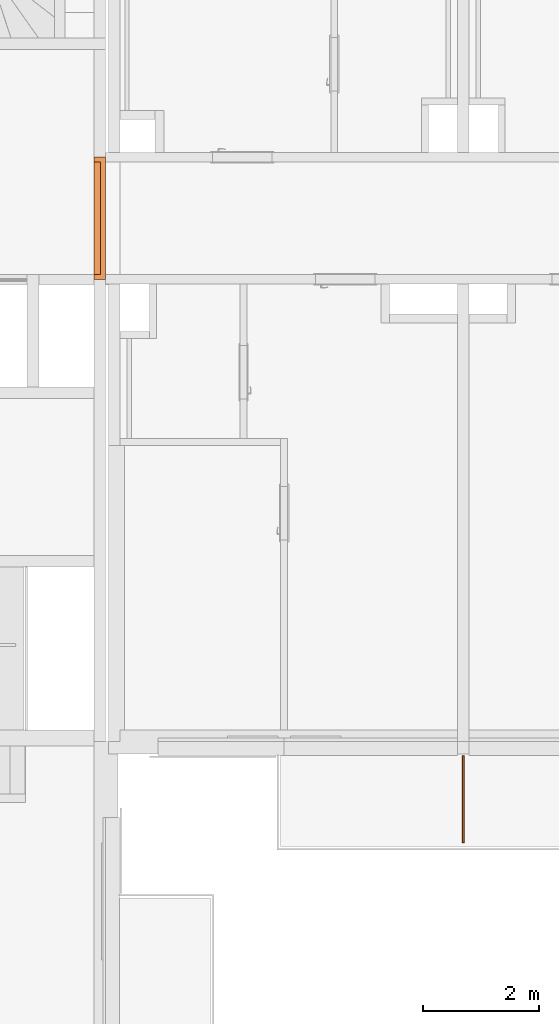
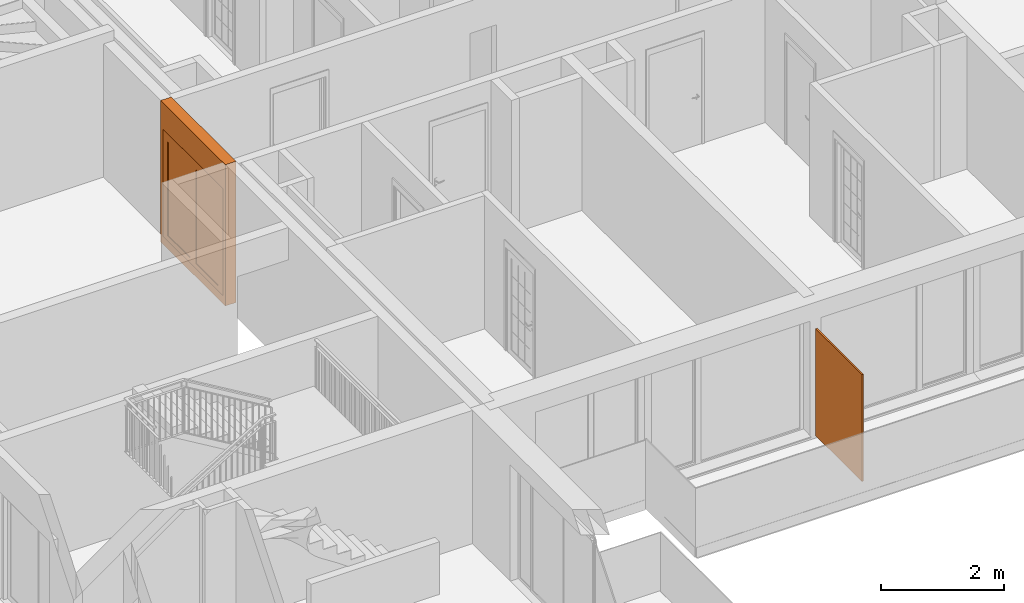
# One storey, part 15 of 61: 3 proxies, 1 opening.
"""IFC2X3 building model written with IfcOpenShell, lengths in millimetres."""

import ifcopenshell
import ifcopenshell.guid

model = None  # the IFC model being written
_history = None  # IfcOwnerHistory: only IFC2X3 demands one
_inside = {}  # id of a spatial element -> (the spatial element, [elements in it])
_under = {}  # id of a project, library or spatial element -> (it, [spatial elements below it])
_declared = {}  # id of a project -> (the project, [libraries it declares])
_typed = {}  # id of a type object -> (the type object, [elements of that type])
_made_of = {}  # id of a material, layer set ... -> (it, [elements and type objects made of it])


def new_model(schema):
    """Start an empty IFC model of exactly this schema.

    Asked for "IFC4X3", IfcOpenShell would pick the latest addendum, in which some entities
    have other attributes; the version numbers below select the first issue.
    IFC2X3 requires an IfcOwnerHistory on every rooted entity: one is made here for all.
    """
    global model, _history
    if schema == "IFC4X3":
        model = ifcopenshell.file(schema_version=(4, 3, 0, 0))
    else:
        model = ifcopenshell.file(schema=schema)
    _inside.clear()
    _under.clear()
    _declared.clear()
    _typed.clear()
    _made_of.clear()
    _history = None
    if model.schema == "IFC2X3":
        org = make("IfcOrganization", Name="unknown")
        user = make(
            "IfcPersonAndOrganization",
            ThePerson=make("IfcPerson", FamilyName="unknown"),
            TheOrganization=org,
        )
        app = make(
            "IfcApplication",
            ApplicationDeveloper=org,
            Version="unknown",
            ApplicationFullName="unknown",
            ApplicationIdentifier="unknown",
        )
        _history = make(
            "IfcOwnerHistory",
            OwningUser=user,
            OwningApplication=app,
            ChangeAction="ADDED",
            CreationDate=0,
        )
    return model


def make(cls, **values):
    """One entity of the class cls with the attributes given. An attribute that is None is left unset."""
    return model.create_entity(
        cls, **{name: value for name, value in values.items() if value is not None}
    )


def entity(cls, *values):
    """Any entity or typed value of the class cls, its attributes in the order of the schema. None: left unset."""
    e = model.create_entity(cls)
    for i, value in enumerate(values):
        if value is not None:
            e[i] = value
    return e


def rooted(cls, **values):
    """An entity with a GlobalId (a new one), such as an element, a storey or a relation."""
    return make(cls, GlobalId=ifcopenshell.guid.new(), OwnerHistory=_history, **values)


def si_unit(unit_type, name, prefix=None):
    """IfcSIUnit, for example si_unit("LENGTHUNIT", "METRE", prefix="MILLI")."""
    return make("IfcSIUnit", UnitType=unit_type, Prefix=prefix, Name=name)


def converted_unit(unit_type, name, factor, base, dimensions=None, offset=None):
    """IfcConversionBasedUnit, such as the inch: factor (a typed value) times the base unit."""
    return make(
        "IfcConversionBasedUnit"
        if offset is None
        else "IfcConversionBasedUnitWithOffset",
        ConversionOffset=offset,
        Dimensions=None
        if dimensions is None
        else entity("IfcDimensionalExponents", *dimensions),
        UnitType=unit_type,
        Name=name,
        ConversionFactor=make(
            "IfcMeasureWithUnit", ValueComponent=factor, UnitComponent=base
        ),
    )


def derived_unit(unit_type, elements):
    """IfcDerivedUnit: a product of units, each with its exponent."""
    return make(
        "IfcDerivedUnit",
        Elements=[
            make("IfcDerivedUnitElement", Unit=unit, Exponent=power)
            for unit, power in elements
        ],
        UnitType=unit_type,
    )


def money_unit(currency):
    """IfcMonetaryUnit."""
    return make("IfcMonetaryUnit", Currency=currency)


def assignment(units):
    """IfcUnitAssignment: the units of a project."""
    return None if units is None else make("IfcUnitAssignment", Units=units)


def point(xyz):
    """IfcCartesianPoint."""
    return None if xyz is None else make("IfcCartesianPoint", Coordinates=xyz)


def direction(xyz):
    """IfcDirection."""
    return None if xyz is None else make("IfcDirection", DirectionRatios=xyz)


def frame(location, z_axis=None, x_axis=None):
    """IfcAxis2Placement3D, a coordinate frame: its origin and axes. An axis left out is left unset."""
    return make(
        "IfcAxis2Placement3D",
        Location=point(location),
        Axis=direction(z_axis),
        RefDirection=direction(x_axis),
    )


def frame_2d(location, x_axis=None):
    """IfcAxis2Placement2D, a coordinate frame in the plane: its origin and x axis."""
    return make(
        "IfcAxis2Placement2D", Location=point(location), RefDirection=direction(x_axis)
    )


def origin_with_axes():
    """The frame at (0, 0, 0) with the z axis (0, 0, 1) and the x axis (1, 0, 0) written out."""
    return frame((0.0, 0.0, 0.0), z_axis=(0.0, 0.0, 1.0), x_axis=(1.0, 0.0, 0.0))


def origin_2d_with_axis():
    """The frame at (0, 0) in the plane with the x axis (1, 0) written out."""
    return frame_2d((0.0, 0.0), x_axis=(1.0, 0.0))


def place(relative_to, where):
    """IfcLocalPlacement: puts the frame where relative to a parent placement (None: the world)."""
    return make(
        "IfcLocalPlacement", PlacementRelTo=relative_to, RelativePlacement=where
    )


def context(
    kind, dimensions, precision=None, world=None, true_north=None, identifier=None
):
    """IfcGeometricRepresentationContext, for example the 3D "Model" context."""
    return make(
        "IfcGeometricRepresentationContext",
        ContextIdentifier=identifier,
        ContextType=kind,
        CoordinateSpaceDimension=dimensions,
        Precision=precision,
        WorldCoordinateSystem=world,
        TrueNorth=true_north,
    )


def subcontext(parent, identifier, kind, view, scale=None):
    """IfcGeometricRepresentationSubContext, for example "Body" below "Model"."""
    return make(
        "IfcGeometricRepresentationSubContext",
        ContextIdentifier=identifier,
        ContextType=kind,
        ParentContext=parent,
        TargetScale=scale,
        TargetView=view,
    )


def project(units=None, contexts=None):
    """IfcProject with its units and contexts."""
    return rooted(
        "IfcProject",
        Name="project",
        RepresentationContexts=contexts,
        UnitsInContext=assignment(units),
    )


def spatial(cls, under=None, at=None, **own):
    """A site, building, storey or space (cls), placed at a placement, below another one or the project."""
    s = rooted(cls, ObjectPlacement=at, **own)
    if under is not None:
        _under.setdefault(under.id(), (under, []))[1].append(s)
    return s


def polyline(points):
    """IfcPolyline through the points."""
    return make("IfcPolyline", Points=[point(p) for p in points])


def profile(cls, at=None, kind="AREA", **sizes):
    """A parametric profile (cls). Its sizes go by their IFC names, for example OverallWidth=200.0."""
    return make(cls, ProfileType=kind, Position=at, **sizes)


def rectangle(**sizes):
    """IfcRectangleProfileDef."""
    return profile("IfcRectangleProfileDef", **sizes)


def outline(outer, holes=None, kind="AREA"):
    """IfcArbitraryClosedProfileDef: a profile drawn as a closed curve; with holes, ...WithVoids."""
    if holes is None:
        return make("IfcArbitraryClosedProfileDef", ProfileType=kind, OuterCurve=outer)
    return make(
        "IfcArbitraryProfileDefWithVoids",
        ProfileType=kind,
        OuterCurve=outer,
        InnerCurves=holes,
    )


def extrude(swept, where, along, depth):
    """IfcExtrudedAreaSolid: the profile swept, set in the frame where, extruded along a direction by depth."""
    return make(
        "IfcExtrudedAreaSolid",
        SweptArea=swept,
        Position=where,
        ExtrudedDirection=direction(along),
        Depth=depth,
    )


def faces_of(points, faces, orient=None, outer=None):
    """IfcFace entities. A face is a list of loops; a loop is a list of indices into points, from 0.

    orient and outer hold one flag for each loop. By default every Orientation is true, the
    first loop of a face is its IfcFaceOuterBound and the others are IfcFaceBound.
    """
    made = []
    for i, loops in enumerate(faces):
        bounds = []
        for j, loop in enumerate(loops):
            is_outer = j == 0 if outer is None else outer[i][j]
            bounds.append(
                make(
                    "IfcFaceOuterBound" if is_outer else "IfcFaceBound",
                    Bound=make("IfcPolyLoop", Polygon=[points[k] for k in loop]),
                    Orientation=True if orient is None else orient[i][j],
                )
            )
        made.append(make("IfcFace", Bounds=bounds))
    return made


def open_shell(faces, orient=None, outer=None):
    """The faces of one IfcOpenShell. surface_model builds it on its shared points."""
    return ("IfcOpenShell", faces, orient, outer)


def faceted_brep(points, faces, orient=None, outer=None, voids=None):
    """IfcFacetedBrep: a solid bounded by flat faces; with voids (closed shells), ...WithVoids."""
    shared = [point(p) for p in points]
    hull = make("IfcClosedShell", CfsFaces=faces_of(shared, faces, orient, outer))
    if voids is None:
        return make("IfcFacetedBrep", Outer=hull)
    return make(
        "IfcFacetedBrepWithVoids",
        Outer=hull,
        Voids=[
            make(cls, CfsFaces=faces_of(shared, fs, o, b)) for cls, fs, o, b in voids
        ],
    )


def surface_model(cls, points, shells):
    """IfcFaceBasedSurfaceModel or IfcShellBasedSurfaceModel (cls): surfaces that need not close."""
    shared = [point(p) for p in points]
    made = [make(c, CfsFaces=faces_of(shared, fs, o, b)) for c, fs, o, b in shells]
    if cls == "IfcFaceBasedSurfaceModel":
        return make(cls, FbsmFaces=made)
    return make(cls, SbsmBoundary=made)


def shape(context_of_items, identifier, shape_type, items):
    """IfcShapeRepresentation: the items that make up one representation, for example the "Body"."""
    return make(
        "IfcShapeRepresentation",
        ContextOfItems=context_of_items,
        RepresentationIdentifier=identifier,
        RepresentationType=shape_type,
        Items=items,
    )


def source(mapping_origin, context_of_items, identifier, shape_type, items):
    """IfcRepresentationMap: a shape defined once, which mapped items show again and again."""
    return make(
        "IfcRepresentationMap",
        MappingOrigin=mapping_origin,
        MappedRepresentation=shape(context_of_items, identifier, shape_type, items),
    )


def transform(
    local_origin,
    x_axis=None,
    y_axis=None,
    z_axis=None,
    scale=None,
    scale2=None,
    scale3=None,
    uniform=True,
):
    """IfcCartesianTransformationOperator3D, or its non-uniform kind. x_axis, y_axis, z_axis: its Axis1, 2, 3."""
    if uniform:
        return make(
            "IfcCartesianTransformationOperator3D",
            Axis1=direction(x_axis),
            Axis2=direction(y_axis),
            LocalOrigin=point(local_origin),
            Scale=scale,
            Axis3=direction(z_axis),
        )
    return make(
        "IfcCartesianTransformationOperator3DnonUniform",
        Axis1=direction(x_axis),
        Axis2=direction(y_axis),
        LocalOrigin=point(local_origin),
        Scale=scale,
        Axis3=direction(z_axis),
        Scale2=scale2,
        Scale3=scale3,
    )


def mapped(mapping_source, mapping_target):
    """IfcMappedItem: shows the shape of a source again, moved by a transform."""
    return make(
        "IfcMappedItem", MappingSource=mapping_source, MappingTarget=mapping_target
    )


def material(Name=None, Category=None):
    """IfcMaterial."""
    return make("IfcMaterial", Name=Name, Category=Category)


def made_of(thing, what):
    """Note that an element or type object is made of a material, layer set ...; save() writes the relation."""
    if what is not None:
        _made_of.setdefault(what.id(), (what, []))[1].append(thing)
    return thing


def type_object(cls, material=None, **own):
    """A type object (cls), such as IfcWallType, which elements share."""
    return made_of(rooted(cls, **own), material)


def element(
    cls,
    number,
    at=None,
    inside=None,
    cuts=None,
    type_object=None,
    material=None,
    context=None,
    identifier="Body",
    shape_type=None,
    held_by="IfcProductDefinitionShape",
    body=None,
    shapes=None,
    **own,
):
    """One element of the class cls, such as IfcWall. Its Tag is "e" and its number.

    at: its placement. inside: the storey or other place that contains it. cuts: it is an
    opening in that element (IfcRelVoidsElement). A single representation is given by context,
    identifier, shape_type and body (its items); several are given by shapes. held_by: the class
    of the entity that holds the representations. save() writes the other relations.
    """
    e = rooted(cls, Tag="e%d" % number, ObjectPlacement=at, **own)
    if body is not None:
        shapes = [shape(context, identifier, shape_type, body)]
    if shapes is not None:
        e.Representation = make(held_by, Representations=shapes)
    if inside is not None:
        _inside.setdefault(inside.id(), (inside, []))[1].append(e)
    if cuts is not None:
        rooted(
            "IfcRelVoidsElement", RelatingBuildingElement=cuts, RelatedOpeningElement=e
        )
    if type_object is not None:
        _typed.setdefault(type_object.id(), (type_object, []))[1].append(e)
    return made_of(e, material)


def fill(opening, filler):
    """IfcRelFillsElement: the door or window that sits in an opening."""
    return rooted(
        "IfcRelFillsElement",
        RelatingOpeningElement=opening,
        RelatedBuildingElement=filler,
    )


def aggregate(whole, parts):
    """IfcRelAggregates: a whole, such as a stair, and the parts it consists of."""
    return rooted("IfcRelAggregates", RelatingObject=whole, RelatedObjects=parts)


def save(model, path):
    """Write the relations noted so far, then the file.

    IfcRelAggregates (storeys below a building ...), IfcRelContainedInSpatialStructure (elements
    in a storey), IfcRelDefinesByType, IfcRelAssociatesMaterial and IfcRelDeclares: one each for
    every whole, place, type object, material and project.
    """
    for whole, parts in _under.values():
        aggregate(whole, parts)
    for where, things in _inside.values():
        rooted(
            "IfcRelContainedInSpatialStructure",
            RelatedElements=things,
            RelatingStructure=where,
        )
    for kind, things in _typed.values():
        rooted("IfcRelDefinesByType", RelatedObjects=things, RelatingType=kind)
    for what, things in _made_of.values():
        rooted("IfcRelAssociatesMaterial", RelatedObjects=things, RelatingMaterial=what)
    for by, libraries in _declared.values():
        rooted("IfcRelDeclares", RelatingContext=by, RelatedDefinitions=libraries)
    model.write(path)


model = new_model("IFC2X3")

# Units and contexts
model_context = context("Model", 3, precision=0.01, world=origin_with_axes(), true_north=direction((0.34421633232, 0.938890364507)))
body_context = subcontext(model_context, "Body", "Model", "MODEL_VIEW")
ifc_project = project(units=[si_unit("LENGTHUNIT", "METRE", prefix="MILLI"), si_unit("AREAUNIT", "SQUARE_METRE"), si_unit("VOLUMEUNIT", "CUBIC_METRE"), converted_unit("PLANEANGLEUNIT", "DEGREE", entity("IfcPlaneAngleMeasure", 0.0174532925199), si_unit("PLANEANGLEUNIT", "RADIAN"), dimensions=[0, 0, 0, 0, 0, 0, 0]), si_unit("SOLIDANGLEUNIT", "STERADIAN"), money_unit("USD"), converted_unit("TIMEUNIT", "Year", entity("IfcTimeMeasure", 31556926.0), si_unit("TIMEUNIT", "SECOND"), dimensions=[0, 0, 1, 0, 0, 0, 0]), si_unit("MASSUNIT", "GRAM", prefix="KILO"), si_unit("THERMODYNAMICTEMPERATUREUNIT", "DEGREE_CELSIUS"), si_unit("LUMINOUSINTENSITYUNIT", "LUMEN"), si_unit("ENERGYUNIT", "JOULE", prefix="MEGA"), derived_unit("THERMALCONDUCTANCEUNIT", [(si_unit("POWERUNIT", "WATT"), 1), (si_unit("LENGTHUNIT", "METRE"), -1), (si_unit("THERMODYNAMICTEMPERATUREUNIT", "KELVIN"), -1)]), derived_unit("SPECIFICHEATCAPACITYUNIT", [(si_unit("ENERGYUNIT", "JOULE"), 1), (si_unit("MASSUNIT", "GRAM", prefix="KILO"), -1), (si_unit("THERMODYNAMICTEMPERATUREUNIT", "KELVIN"), -1)]), derived_unit("MASSDENSITYUNIT", [(si_unit("MASSUNIT", "GRAM", prefix="KILO"), 1), (si_unit("VOLUMEUNIT", "CUBIC_METRE"), -1)])], contexts=[model_context])

# Site, building, storey
site_placement = place(None, origin_with_axes())
site = spatial("IfcSite", under=ifc_project, at=site_placement, Name="USTRONIE MORSKIE", CompositionType="ELEMENT")
building_placement = place(site_placement, origin_with_axes())
building = spatial("IfcBuilding", under=site, at=building_placement, Name="Budynek", CompositionType="ELEMENT")
storey_placement = place(building_placement, frame((0.0, 0.0, 13000.0), z_axis=(0.0, 0.0, 1.0), x_axis=(1.0, 0.0, 0.0)))
storey = spatial("IfcBuildingStorey", under=building, at=storey_placement, Name="PIĘTRO 4", CompositionType="ELEMENT", Elevation=13000.0)

# Proxies, opening
ifc_material_1 = material(Name="Beton konstrukcyjny B25")
building_element_proxy_type_1 = type_object("IfcBuildingElementProxyType", Name="Beton konstrukcyjny B25 200", PredefinedType="NOTDEFINED")
proxy_1_placement = place(storey_placement, frame((367067.921058, 734751.199036, -160.0), z_axis=(0.0, 0.0, 1.0), x_axis=(1.16375531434e-08, 1.0, 0.0)))
proxy_1 = element("IfcBuildingElementProxy", 1, at=proxy_1_placement, inside=storey, type_object=building_element_proxy_type_1, material=ifc_material_1, Name="SW-01", context=body_context, shape_type="Brep", body=[
    faceted_brep([(2100.00000116, -99.9999755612, 0.0), (1.16369847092e-06, -100.0, 0.0), (-1.16381215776e-06, 100.0, 0.0), (2099.99999884, 100.000024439, 0.0), (2100.00000116, -99.9999755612, 2800.0), (1.16369847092e-06, -100.0, 2800.0), (-1.16381215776e-06, 100.0, 2800.0), (2099.99999884, 100.000024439, 2800.0)], [[[0, 1, 2, 3]], [[4, 5, 1, 0]], [[1, 5, 6, 2]], [[3, 2, 6, 7]], [[7, 4, 0, 3]], [[7, 6, 5, 4]]]),
])
opening_placement = place(proxy_1_placement, frame((1050.00000116, 0.0, 160.0), z_axis=(0.0, 0.0, 1.0), x_axis=(1.0, 0.0, 0.0)))
opening = element("IfcOpeningElement", 2, at=opening_placement, cuts=proxy_1, Name="Dw.6", context=body_context, shape_type="SweptSolid", body=[
    extrude(rectangle(XDim=1940.0, YDim=2120.0, at=origin_2d_with_axis()), frame((1.16369847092e-06, -200.0, 1060.0), z_axis=(-1.16375531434e-08, 1.0, 0.0), x_axis=(1.0, 1.16375530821e-08, 0.0)), (0.0, 0.0, 1.0), 600.0),
])
building_element_proxy_type_2 = type_object("IfcBuildingElementProxyType", Name="Drzwi podwójne 23", PredefinedType="NOTDEFINED")
shared_shape = source(origin_with_axes(), body_context, "Body", "SurfaceModel", [
    faceted_brep([(-910.0, -40.0, 0.0), (-910.0, -40.0, 2050.0), (-910.0, -115.0, 2050.0), (-910.0, -115.0, 0.0), (-922.0, -40.0, 2050.0), (-922.0, -40.0, 0.0), (-922.0, 0.0, 2050.0), (-970.0, 0.0, 2050.0), (-970.0, -115.0, 2050.0), (-970.0, -115.0, 0.0), (-970.0, 0.0, 0.0), (-922.0, 0.0, 0.0)], [[[0, 1, 2, 3]], [[4, 1, 0, 5]], [[4, 6, 7, 8, 2, 1]], [[3, 2, 8, 9]], [[5, 0, 3, 9, 10, 11]], [[6, 4, 5, 11]], [[6, 11, 10, 7]], [[10, 9, 8, 7]]]),
    faceted_brep([(922.0, -40.0, 2050.0), (910.0, -40.0, 2050.0), (910.0, -115.0, 2050.0), (970.0, -115.0, 2050.0), (970.0, 0.0, 2050.0), (922.0, 0.0, 2050.0), (922.0, -40.0, 0.0), (910.0, -40.0, 0.0), (910.0, -115.0, 0.0), (970.0, -115.0, 0.0), (970.0, 0.0, 0.0), (922.0, 0.0, 0.0)], [[[0, 1, 2, 3, 4, 5]], [[1, 0, 6, 7]], [[1, 7, 8, 2]], [[3, 2, 8, 9]], [[4, 3, 9, 10]], [[11, 5, 4, 10]], [[0, 5, 11, 6]], [[6, 11, 10, 9, 8, 7]]]),
    faceted_brep([(-922.0, 0.0, 2062.0), (-922.0, 0.0, 2050.0), (-970.0, 0.0, 2050.0), (-970.0, 0.0, 2120.0), (970.0, 0.0, 2120.0), (970.0, 0.0, 2050.0), (922.0, 0.0, 2050.0), (922.0, 0.0, 2062.0), (-922.0, -40.0, 2062.0), (-922.0, -40.0, 2050.0), (-910.0, -40.0, 2050.0), (-910.0, -115.0, 2050.0), (-970.0, -115.0, 2050.0), (-970.0, -115.0, 2120.0), (970.0, -115.0, 2120.0), (970.0, -115.0, 2050.0), (922.0, -40.0, 2050.0), (910.0, -115.0, 2050.0), (910.0, -40.0, 2050.0), (922.0, -40.0, 2062.0)], [[[0, 1, 2, 3, 4, 5, 6, 7]], [[1, 0, 8, 9]], [[9, 10, 11, 12, 2, 1]], [[2, 12, 13, 3]], [[3, 13, 14, 4]], [[4, 14, 15, 5]], [[16, 6, 5, 15, 17, 18]], [[7, 6, 16, 19]], [[0, 7, 19, 8]], [[16, 18, 10, 9, 8, 19]], [[10, 18, 17, 11]], [[17, 15, 14, 13, 12, 11]]]),
    faceted_brep([(922.0, 0.0, 100.0), (922.0, -40.0, 100.0), (822.0, -40.0, 100.0), (822.0, 0.0, 100.0), (922.0, 0.0, 1962.0), (922.0, -40.0, 1962.0), (822.0, -40.0, 1962.0), (822.0, 0.0, 1962.0)], [[[0, 1, 2, 3]], [[4, 5, 1, 0]], [[1, 5, 6, 2]], [[3, 2, 6, 7]], [[0, 3, 7, 4]], [[7, 6, 5, 4]]]),
    faceted_brep([(0.0, 0.0, 100.0), (0.0, -40.0, 100.0), (0.0, -40.0, 1962.0), (0.0, 0.0, 1962.0), (100.0, 0.0, 100.0), (100.0, -40.0, 100.0), (100.0, -40.0, 1962.0), (100.0, 0.0, 1962.0)], [[[0, 1, 2, 3]], [[4, 5, 1, 0]], [[1, 5, 6, 2]], [[3, 2, 6, 7]], [[0, 3, 7, 4]], [[7, 6, 5, 4]]]),
    faceted_brep([(922.0, 0.0, 0.0), (922.0, -40.0, 0.0), (0.0, -40.0, 0.0), (0.0, 0.0, 0.0), (922.0, 0.0, 100.0), (922.0, -40.0, 100.0), (822.0, -40.0, 100.0), (100.0, -40.0, 100.0), (0.0, -40.0, 100.0), (0.0, 0.0, 100.0), (100.0, 0.0, 100.0), (822.0, 0.0, 100.0)], [[[0, 1, 2, 3]], [[4, 5, 1, 0]], [[1, 5, 6, 7, 8, 2]], [[3, 2, 8, 9]], [[0, 3, 9, 10, 11, 4]], [[11, 6, 5, 4]], [[10, 7, 6, 11]], [[9, 8, 7, 10]]]),
    faceted_brep([(922.0, 0.0, 2062.0), (922.0, -40.0, 2062.0), (922.0, -40.0, 1962.0), (922.0, 0.0, 1962.0), (0.0, 0.0, 2062.0), (0.0, -40.0, 2062.0), (0.0, -40.0, 1962.0), (100.0, -40.0, 1962.0), (822.0, -40.0, 1962.0), (822.0, 0.0, 1962.0), (100.0, 0.0, 1962.0), (0.0, 0.0, 1962.0)], [[[0, 1, 2, 3]], [[4, 5, 1, 0]], [[1, 5, 6, 7, 8, 2]], [[3, 2, 8, 9]], [[0, 3, 9, 10, 11, 4]], [[11, 6, 5, 4]], [[10, 7, 6, 11]], [[9, 8, 7, 10]]]),
    surface_model("IfcShellBasedSurfaceModel", [(822.0, -14.0, 100.0), (100.0, -14.0, 100.0), (100.0, -14.0, 1962.0), (822.0, -14.0, 1962.0)], [open_shell([[[0, 1, 2, 3]]])]),
    surface_model("IfcShellBasedSurfaceModel", [(822.0, -26.0, 100.0), (822.0, -26.0, 1962.0), (100.0, -26.0, 1962.0), (100.0, -26.0, 100.0)], [open_shell([[[0, 1, 2, 3]]])]),
    faceted_brep([(-922.0, 0.0, 100.0), (-822.0, 0.0, 100.0), (-822.0, -40.0, 100.0), (-922.0, -40.0, 100.0), (-922.0, 0.0, 1962.0), (-822.0, 0.0, 1962.0), (-822.0, -40.0, 1962.0), (-922.0, -40.0, 1962.0)], [[[0, 1, 2, 3]], [[0, 4, 5, 1]], [[1, 5, 6, 2]], [[3, 2, 6, 7]], [[4, 0, 3, 7]], [[5, 4, 7, 6]]]),
    faceted_brep([(0.0, 0.0, 100.0), (0.0, 0.0, 1962.0), (0.0, -40.0, 1962.0), (0.0, -40.0, 100.0), (-100.0, 0.0, 100.0), (-100.0, 0.0, 1962.0), (-100.0, -40.0, 1962.0), (-100.0, -40.0, 100.0)], [[[0, 1, 2, 3]], [[0, 4, 5, 1]], [[1, 5, 6, 2]], [[3, 2, 6, 7]], [[4, 0, 3, 7]], [[5, 4, 7, 6]]]),
    faceted_brep([(-922.0, 0.0, 0.0), (0.0, 0.0, 0.0), (0.0, -40.0, 0.0), (-922.0, -40.0, 0.0), (-922.0, 0.0, 100.0), (-822.0, 0.0, 100.0), (-100.0, 0.0, 100.0), (0.0, 0.0, 100.0), (0.0, -40.0, 100.0), (-100.0, -40.0, 100.0), (-822.0, -40.0, 100.0), (-922.0, -40.0, 100.0)], [[[0, 1, 2, 3]], [[0, 4, 5, 6, 7, 1]], [[1, 7, 8, 2]], [[3, 2, 8, 9, 10, 11]], [[4, 0, 3, 11]], [[5, 4, 11, 10]], [[6, 5, 10, 9]], [[7, 6, 9, 8]]]),
    faceted_brep([(-922.0, 0.0, 2062.0), (-922.0, 0.0, 1962.0), (-922.0, -40.0, 1962.0), (-922.0, -40.0, 2062.0), (0.0, 0.0, 2062.0), (0.0, 0.0, 1962.0), (-100.0, 0.0, 1962.0), (-822.0, 0.0, 1962.0), (-822.0, -40.0, 1962.0), (-100.0, -40.0, 1962.0), (0.0, -40.0, 1962.0), (0.0, -40.0, 2062.0)], [[[0, 1, 2, 3]], [[0, 4, 5, 6, 7, 1]], [[1, 7, 8, 2]], [[3, 2, 8, 9, 10, 11]], [[4, 0, 3, 11]], [[5, 4, 11, 10]], [[6, 5, 10, 9]], [[7, 6, 9, 8]]]),
    surface_model("IfcShellBasedSurfaceModel", [(-822.0, -14.0, 100.0), (-822.0, -14.0, 1962.0), (-100.0, -14.0, 1962.0), (-100.0, -14.0, 100.0)], [open_shell([[[0, 1, 2, 3]]])]),
    surface_model("IfcShellBasedSurfaceModel", [(-822.0, -26.0, 100.0), (-100.0, -26.0, 100.0), (-100.0, -26.0, 1962.0), (-822.0, -26.0, 1962.0)], [open_shell([[[0, 1, 2, 3]]])]),
])
proxy_2_placement = place(opening_placement, frame((-910.0, 0.0, 0.0), z_axis=(0.0, 0.0, 1.0), x_axis=(1.0, 0.0, 0.0)))
proxy_2 = element("IfcBuildingElementProxy", 3, at=proxy_2_placement, inside=storey, type_object=building_element_proxy_type_2, Name="Dw.6", context=body_context, shape_type="MappedRepresentation", body=[
    mapped(shared_shape, transform((909.999997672, 100.000012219, 0.0))),
])
fill(opening, proxy_2)

# Proxy
ifc_material_2 = material(Name="Woda")
building_element_proxy_type_3 = type_object("IfcBuildingElementProxyType", Name="Woda 30", PredefinedType="NOTDEFINED")
proxy_3_placement = place(storey_placement, frame((373317.920919, 726561.18631, 20.0), z_axis=(0.0, 0.0, 1.0), x_axis=(0.0, -1.0, 0.0)))
element("IfcBuildingElementProxy", 4, at=proxy_3_placement, inside=storey, type_object=building_element_proxy_type_3, material=ifc_material_2, Name="Œciana-007", context=body_context, shape_type="SweptSolid", body=[
    extrude(outline(polyline([(0.0, -15.0), (1500.0, -15.0), (1500.0, 15.0), (0.0, 15.0), (0.0, -15.0)])), origin_with_axes(), (0.0, 0.0, 1.0), 2120.0),
])

save(model, "model.ifc")
